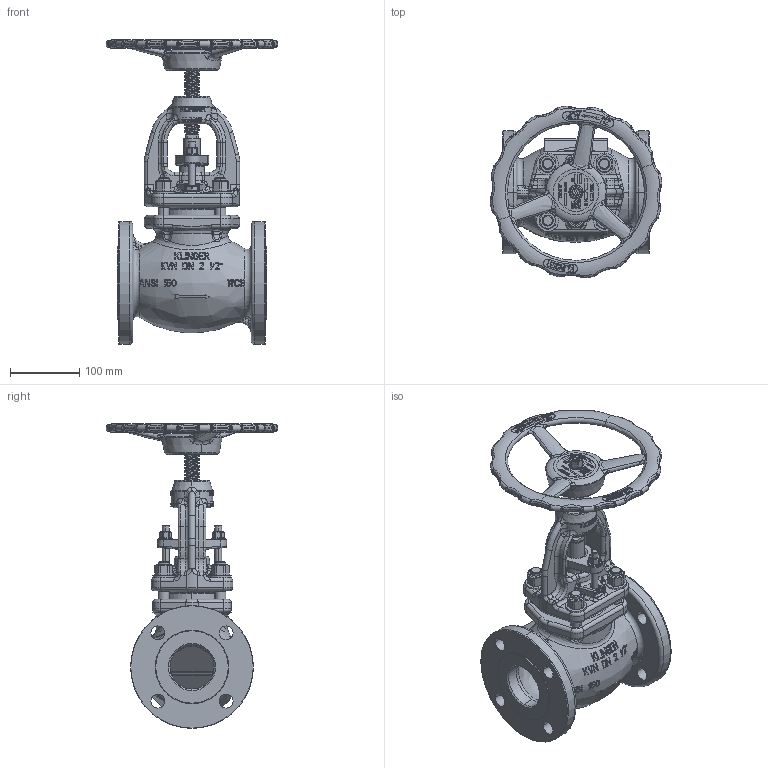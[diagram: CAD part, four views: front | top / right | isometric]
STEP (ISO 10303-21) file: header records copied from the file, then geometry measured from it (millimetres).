
FILE_DESCRIPTION((''),'2;1');
FILE_NAME('KVNFL-52S-----C150PGG_SW0001','2019-04-23T13:48:59',('jeitlers'),('KLINGER'),'CREO PARAMETRIC BY PTC INC, 2018420','CREO PARAMETRIC BY PTC INC, 2018420','');
FILE_SCHEMA(('AUTOMOTIVE_DESIGN { 1 0 10303 214 1 1 1 1 }'));
Products named in the file (1): KVNFL-52S-----C150PGG_SW0001
Bounding box: 248.94 x 248.94 x 441.54 mm (x, y, z)
Volume: 3255539.5 mm3; surface area: 586365.9 mm2
Topology: 1 solids, 1 shells, 4401 faces, 11664 edges, 7411 vertices
Faces by surface type: plane 2614, bspline 638, cylinder 584, torus 297, cone 211, sphere 57
Entity records: 229441 total; most frequent: CARTESIAN_POINT 127109, ORIENTED_EDGE 23324, DIRECTION 18247, EDGE_CURVE 11662, VERTEX_POINT 7411, AXIS2_PLACEMENT_3D 6314, VECTOR 5616, LINE 5616
